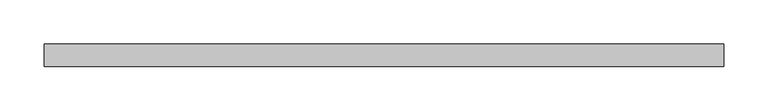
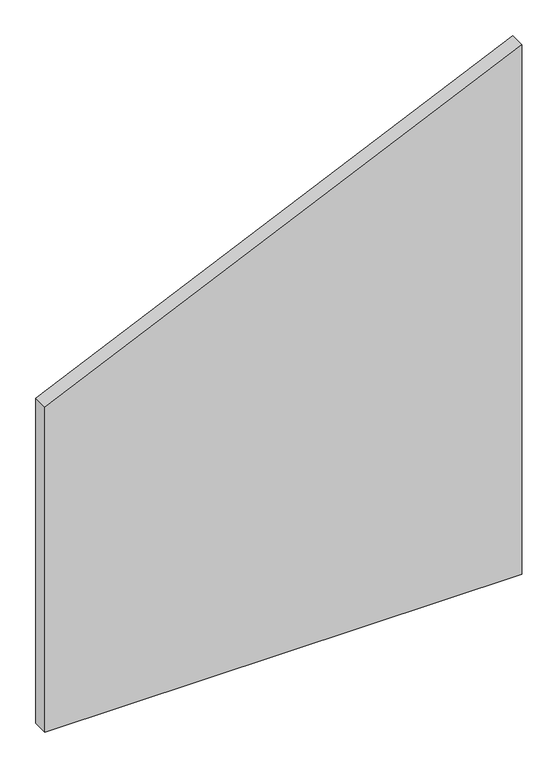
"""IFC4 building model written with IfcOpenShell, lengths in millimetres: plate geometry, Системная панель : С остеклением."""

import ifcopenshell
import ifcopenshell.guid

model = None  # the IFC model being written
_history = None  # IfcOwnerHistory: only IFC2X3 demands one
_inside = {}  # id of a spatial element -> (the spatial element, [elements in it])
_under = {}  # id of a project, library or spatial element -> (it, [spatial elements below it])
_declared = {}  # id of a project -> (the project, [libraries it declares])
_typed = {}  # id of a type object -> (the type object, [elements of that type])
_made_of = {}  # id of a material, layer set ... -> (it, [elements and type objects made of it])


def new_model(schema):
    """Start an empty IFC model of exactly this schema.

    Asked for "IFC4X3", IfcOpenShell would pick the latest addendum, in which some entities
    have other attributes; the version numbers below select the first issue.
    IFC2X3 requires an IfcOwnerHistory on every rooted entity: one is made here for all.
    """
    global model, _history
    if schema == "IFC4X3":
        model = ifcopenshell.file(schema_version=(4, 3, 0, 0))
    else:
        model = ifcopenshell.file(schema=schema)
    _inside.clear()
    _under.clear()
    _declared.clear()
    _typed.clear()
    _made_of.clear()
    _history = None
    if model.schema == "IFC2X3":
        org = make("IfcOrganization", Name="unknown")
        user = make(
            "IfcPersonAndOrganization",
            ThePerson=make("IfcPerson", FamilyName="unknown"),
            TheOrganization=org,
        )
        app = make(
            "IfcApplication",
            ApplicationDeveloper=org,
            Version="unknown",
            ApplicationFullName="unknown",
            ApplicationIdentifier="unknown",
        )
        _history = make(
            "IfcOwnerHistory",
            OwningUser=user,
            OwningApplication=app,
            ChangeAction="ADDED",
            CreationDate=0,
        )
    return model


def make(cls, **values):
    """One entity of the class cls with the attributes given. An attribute that is None is left unset."""
    return model.create_entity(
        cls, **{name: value for name, value in values.items() if value is not None}
    )


def rooted(cls, **values):
    """An entity with a GlobalId (a new one), such as an element, a storey or a relation."""
    return make(cls, GlobalId=ifcopenshell.guid.new(), OwnerHistory=_history, **values)


def si_unit(unit_type, name, prefix=None):
    """IfcSIUnit, for example si_unit("LENGTHUNIT", "METRE", prefix="MILLI")."""
    return make("IfcSIUnit", UnitType=unit_type, Prefix=prefix, Name=name)


def assignment(units):
    """IfcUnitAssignment: the units of a project."""
    return None if units is None else make("IfcUnitAssignment", Units=units)


def point(xyz):
    """IfcCartesianPoint."""
    return None if xyz is None else make("IfcCartesianPoint", Coordinates=xyz)


def direction(xyz):
    """IfcDirection."""
    return None if xyz is None else make("IfcDirection", DirectionRatios=xyz)


def frame(location, z_axis=None, x_axis=None):
    """IfcAxis2Placement3D, a coordinate frame: its origin and axes. An axis left out is left unset."""
    return make(
        "IfcAxis2Placement3D",
        Location=point(location),
        Axis=direction(z_axis),
        RefDirection=direction(x_axis),
    )


def origin():
    """The frame at (0, 0, 0) with its axes left unset."""
    return frame((0.0, 0.0, 0.0))


def place(relative_to, where):
    """IfcLocalPlacement: puts the frame where relative to a parent placement (None: the world)."""
    return make(
        "IfcLocalPlacement", PlacementRelTo=relative_to, RelativePlacement=where
    )


def context(
    kind, dimensions, precision=None, world=None, true_north=None, identifier=None
):
    """IfcGeometricRepresentationContext, for example the 3D "Model" context."""
    return make(
        "IfcGeometricRepresentationContext",
        ContextIdentifier=identifier,
        ContextType=kind,
        CoordinateSpaceDimension=dimensions,
        Precision=precision,
        WorldCoordinateSystem=world,
        TrueNorth=true_north,
    )


def project(units=None, contexts=None):
    """IfcProject with its units and contexts."""
    return rooted(
        "IfcProject",
        Name="project",
        RepresentationContexts=contexts,
        UnitsInContext=assignment(units),
    )


def spatial(cls, under=None, at=None, **own):
    """A site, building, storey or space (cls), placed at a placement, below another one or the project."""
    s = rooted(cls, ObjectPlacement=at, **own)
    if under is not None:
        _under.setdefault(under.id(), (under, []))[1].append(s)
    return s


def polyline(points):
    """IfcPolyline through the points."""
    return make("IfcPolyline", Points=[point(p) for p in points])


def outline(outer, holes=None, kind="AREA"):
    """IfcArbitraryClosedProfileDef: a profile drawn as a closed curve; with holes, ...WithVoids."""
    if holes is None:
        return make("IfcArbitraryClosedProfileDef", ProfileType=kind, OuterCurve=outer)
    return make(
        "IfcArbitraryProfileDefWithVoids",
        ProfileType=kind,
        OuterCurve=outer,
        InnerCurves=holes,
    )


def extrude(swept, where, along, depth):
    """IfcExtrudedAreaSolid: the profile swept, set in the frame where, extruded along a direction by depth."""
    return make(
        "IfcExtrudedAreaSolid",
        SweptArea=swept,
        Position=where,
        ExtrudedDirection=direction(along),
        Depth=depth,
    )


def shape(context_of_items, identifier, shape_type, items):
    """IfcShapeRepresentation: the items that make up one representation, for example the "Body"."""
    return make(
        "IfcShapeRepresentation",
        ContextOfItems=context_of_items,
        RepresentationIdentifier=identifier,
        RepresentationType=shape_type,
        Items=items,
    )


def source(mapping_origin, context_of_items, identifier, shape_type, items):
    """IfcRepresentationMap: a shape defined once, which mapped items show again and again."""
    return make(
        "IfcRepresentationMap",
        MappingOrigin=mapping_origin,
        MappedRepresentation=shape(context_of_items, identifier, shape_type, items),
    )


def transform(
    local_origin,
    x_axis=None,
    y_axis=None,
    z_axis=None,
    scale=None,
    scale2=None,
    scale3=None,
    uniform=True,
):
    """IfcCartesianTransformationOperator3D, or its non-uniform kind. x_axis, y_axis, z_axis: its Axis1, 2, 3."""
    if uniform:
        return make(
            "IfcCartesianTransformationOperator3D",
            Axis1=direction(x_axis),
            Axis2=direction(y_axis),
            LocalOrigin=point(local_origin),
            Scale=scale,
            Axis3=direction(z_axis),
        )
    return make(
        "IfcCartesianTransformationOperator3DnonUniform",
        Axis1=direction(x_axis),
        Axis2=direction(y_axis),
        LocalOrigin=point(local_origin),
        Scale=scale,
        Axis3=direction(z_axis),
        Scale2=scale2,
        Scale3=scale3,
    )


def mapped(mapping_source, mapping_target):
    """IfcMappedItem: shows the shape of a source again, moved by a transform."""
    return make(
        "IfcMappedItem", MappingSource=mapping_source, MappingTarget=mapping_target
    )


def made_of(thing, what):
    """Note that an element or type object is made of a material, layer set ...; save() writes the relation."""
    if what is not None:
        _made_of.setdefault(what.id(), (what, []))[1].append(thing)
    return thing


def element(
    cls,
    number,
    at=None,
    inside=None,
    cuts=None,
    type_object=None,
    material=None,
    context=None,
    identifier="Body",
    shape_type=None,
    held_by="IfcProductDefinitionShape",
    body=None,
    shapes=None,
    **own,
):
    """One element of the class cls, such as IfcWall. Its Tag is "e" and its number.

    at: its placement. inside: the storey or other place that contains it. cuts: it is an
    opening in that element (IfcRelVoidsElement). A single representation is given by context,
    identifier, shape_type and body (its items); several are given by shapes. held_by: the class
    of the entity that holds the representations. save() writes the other relations.
    """
    e = rooted(cls, Tag="e%d" % number, ObjectPlacement=at, **own)
    if body is not None:
        shapes = [shape(context, identifier, shape_type, body)]
    if shapes is not None:
        e.Representation = make(held_by, Representations=shapes)
    if inside is not None:
        _inside.setdefault(inside.id(), (inside, []))[1].append(e)
    if cuts is not None:
        rooted(
            "IfcRelVoidsElement", RelatingBuildingElement=cuts, RelatedOpeningElement=e
        )
    if type_object is not None:
        _typed.setdefault(type_object.id(), (type_object, []))[1].append(e)
    return made_of(e, material)


def aggregate(whole, parts):
    """IfcRelAggregates: a whole, such as a stair, and the parts it consists of."""
    return rooted("IfcRelAggregates", RelatingObject=whole, RelatedObjects=parts)


def save(model, path):
    """Write the relations noted so far, then the file.

    IfcRelAggregates (storeys below a building ...), IfcRelContainedInSpatialStructure (elements
    in a storey), IfcRelDefinesByType, IfcRelAssociatesMaterial and IfcRelDeclares: one each for
    every whole, place, type object, material and project.
    """
    for whole, parts in _under.values():
        aggregate(whole, parts)
    for where, things in _inside.values():
        rooted(
            "IfcRelContainedInSpatialStructure",
            RelatedElements=things,
            RelatingStructure=where,
        )
    for kind, things in _typed.values():
        rooted("IfcRelDefinesByType", RelatedObjects=things, RelatingType=kind)
    for what, things in _made_of.values():
        rooted("IfcRelAssociatesMaterial", RelatedObjects=things, RelatingMaterial=what)
    for by, libraries in _declared.values():
        rooted("IfcRelDeclares", RelatingContext=by, RelatedDefinitions=libraries)
    model.write(path)


def plate_9ac29867(model_context):
    return source(origin(), model_context, "Body", "SweptSolid", [
        extrude(outline(polyline([(0.0, -382.5), (0.0, 382.5), (897.4595981, 382.5), (550.9211365, -382.5), (0.0, -382.5)])), frame((0.0, 24.5, 0.0), z_axis=(0.0, 1.0, 0.0), x_axis=(0.0, 0.0, 1.0)), (0.0, 0.0, 1.0), 25.0),
    ])


if __name__ == "__main__":
    model = new_model("IFC4")
    model_context = context("Model", 3, world=origin())
    ifc_project = project(units=[si_unit("LENGTHUNIT", "METRE", prefix="MILLI")], contexts=[model_context])
    site = spatial("IfcSite", under=ifc_project)
    building = spatial("IfcBuilding", under=site)
    placement = place(None, origin())
    plate_shape = plate_9ac29867(model_context)
    element("IfcPlate", 1, ObjectType="Системная панель : С остеклением", at=placement, inside=building, context=model_context, shape_type="MappedRepresentation", body=[
        mapped(plate_shape, transform((0.0, 0.0, 0.0), x_axis=(1.0, 0.0, 0.0), y_axis=(0.0, 1.0, 0.0), z_axis=(0.0, 0.0, 1.0))),
    ])
    save(model, "model.ifc")
